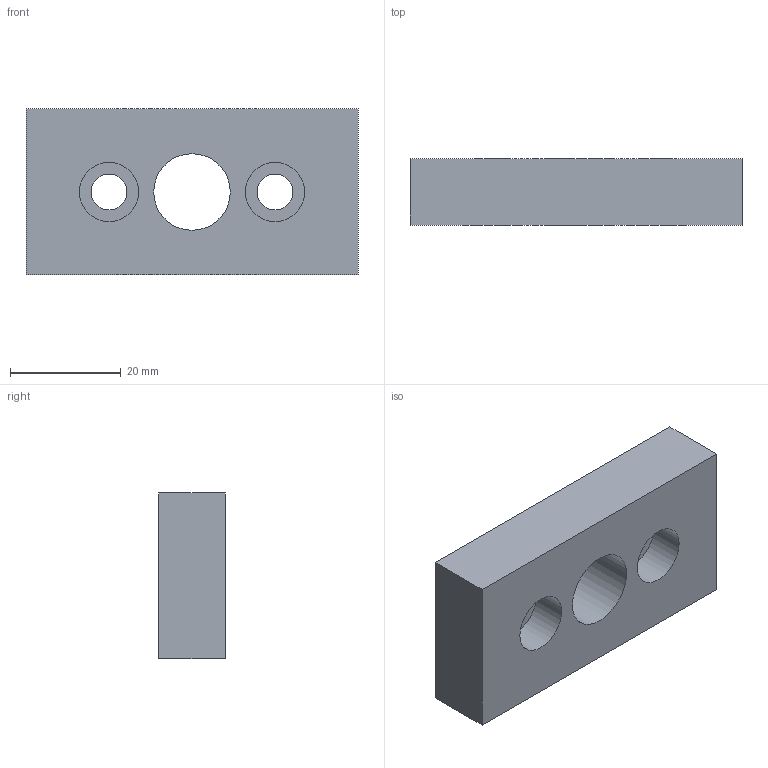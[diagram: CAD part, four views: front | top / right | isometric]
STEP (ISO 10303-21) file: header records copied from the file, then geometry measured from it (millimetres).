
FILE_DESCRIPTION(/* description */ ('Unknown'),/* implementation_level */ '2;1');
FILE_NAME(/* name */ 'FT3060M16',/* time_stamp */ '2026-09-18T10:05:04+08:00',/* author */ ('Unknown'),/* organization */ ('Unknown'),/* preprocessor_version */ 'ST-DEVELOPER v16.7',/* originating_system */ 'DEX',/* authorisation */ $);
FILE_SCHEMA (('AUTOMOTIVE_DESIGN {1 0 10303 214 3 1 1}'));
Length unit declared in the file: millimetre
Products named in the file (1): FT3060FP16 - 複
Bounding box: 60 x 12 x 30 mm (x, y, z)
Volume: 18262.1 mm3; surface area: 6509.8 mm2
Topology: 1 solids, 1 shells, 13 faces, 27 edges, 18 vertices
Faces by surface type: plane 8, cylinder 5
Full cylindrical faces by diameter (mm): 6.5 x2, 10.7 x2, 13.835 x1
Entity records: 453 total; most frequent: DIRECTION 60, CARTESIAN_POINT 54, ORIENTED_EDGE 44, EDGE_LOOP 26, FACE_BOUND 26, AXIS2_PLACEMENT_3D 24, EDGE_CURVE 22, VERTEX_POINT 18
